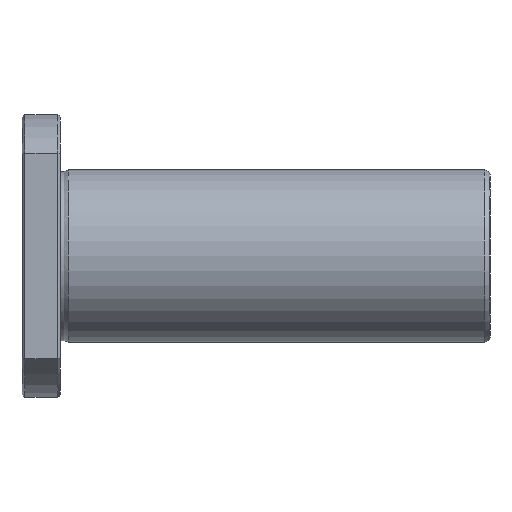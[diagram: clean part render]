
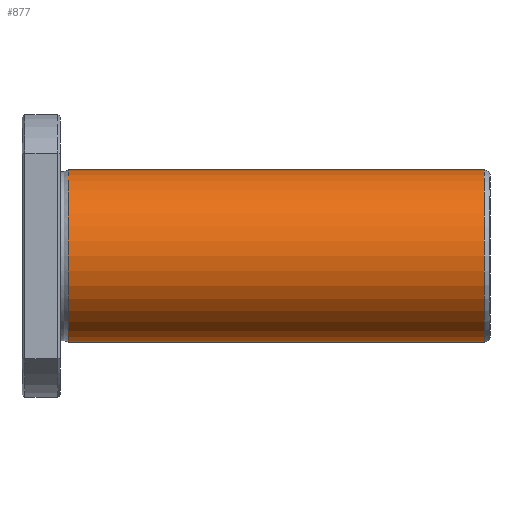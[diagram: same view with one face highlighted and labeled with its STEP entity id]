
A CAD part, front view. The second image highlights one B-rep face of the part: STEP entity #877.
In plain terms, the highlighted cylindrical face has radius 22.5 mm (diameter 45 mm), a full revolution.
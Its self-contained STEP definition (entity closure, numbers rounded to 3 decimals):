
#843=CARTESIAN_POINT('',(120.502,0.0,22.5));
#844=VERTEX_POINT('',#843);
#845=CARTESIAN_POINT('',(120.502,0.0,0.0));
#846=DIRECTION('',(-1.0,0.0,0.0));
#847=DIRECTION('',(0.0,0.0,1.0));
#848=AXIS2_PLACEMENT_3D('',#845,#846,#847);
#849=CIRCLE('',#848,22.5);
#850=EDGE_CURVE('',#844,#844,#849,.T.);
#858=CARTESIAN_POINT('',(66.262,0.0,0.0));
#859=DIRECTION('',(-1.0,0.0,0.0));
#860=DIRECTION('',(0.0,0.0,1.0));
#861=AXIS2_PLACEMENT_3D('',#858,#859,#860);
#862=CYLINDRICAL_SURFACE('',#861,22.5);
#863=CARTESIAN_POINT('',(12.023,0.0,22.5));
#864=VERTEX_POINT('',#863);
#865=CARTESIAN_POINT('',(12.023,0.0,0.0));
#866=DIRECTION('',(-1.0,0.0,0.0));
#867=DIRECTION('',(0.0,0.0,1.0));
#868=AXIS2_PLACEMENT_3D('',#865,#866,#867);
#869=CIRCLE('',#868,22.5);
#870=EDGE_CURVE('',#864,#864,#869,.T.);
#871=ORIENTED_EDGE('',*,*,#870,.F.);
#872=EDGE_LOOP('',(#871));
#873=FACE_OUTER_BOUND('',#872,.T.);
#874=ORIENTED_EDGE('',*,*,#850,.T.);
#875=EDGE_LOOP('',(#874));
#876=FACE_BOUND('',#875,.T.);
#877=ADVANCED_FACE('',(#873,#876),#862,.T.);
